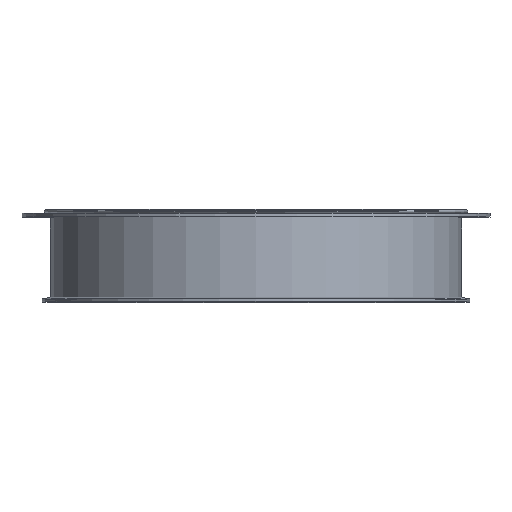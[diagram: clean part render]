
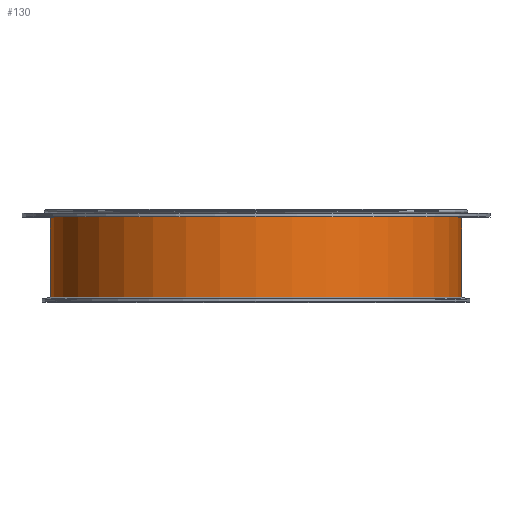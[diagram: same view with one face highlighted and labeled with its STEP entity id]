
A CAD part, top view. The second image highlights one B-rep face of the part: STEP entity #130.
In plain terms, the highlighted cylindrical face has radius 225.8 mm (diameter 451.6 mm), a full revolution.
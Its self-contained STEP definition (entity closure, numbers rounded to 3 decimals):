
#130=ADVANCED_FACE('',(#193,#194),#153,.T.);
#153=CYLINDRICAL_SURFACE('',#558,225.8);
#193=FACE_BOUND('',#273,.T.);
#194=FACE_BOUND('',#274,.T.);
#273=EDGE_LOOP('',(#353));
#274=EDGE_LOOP('',(#354));
#353=ORIENTED_EDGE('',*,*,#454,.F.);
#354=ORIENTED_EDGE('',*,*,#462,.F.);
#414=VERTEX_POINT('',#772);
#422=VERTEX_POINT('',#793);
#454=EDGE_CURVE('',#414,#414,#494,.T.);
#462=EDGE_CURVE('',#422,#422,#502,.T.);
#494=CIRCLE('',#543,225.8);
#502=CIRCLE('',#556,225.8);
#543=AXIS2_PLACEMENT_3D('',#771,#634,#635);
#556=AXIS2_PLACEMENT_3D('',#792,#660,#661);
#558=AXIS2_PLACEMENT_3D('',#795,#664,#665);
#634=DIRECTION('',(0.,-1.,0.));
#635=DIRECTION('',(-1.,0.,0.));
#660=DIRECTION('',(0.,1.,0.));
#661=DIRECTION('',(1.,0.,0.));
#664=DIRECTION('',(0.,1.,0.));
#665=DIRECTION('',(1.,0.,0.));
#771=CARTESIAN_POINT('',(0.,5.196,0.));
#772=CARTESIAN_POINT('',(-225.8,5.196,0.));
#792=CARTESIAN_POINT('',(0.,99.2,0.));
#793=CARTESIAN_POINT('',(225.8,99.2,0.));
#795=CARTESIAN_POINT('',(0.,-192.076,0.));
